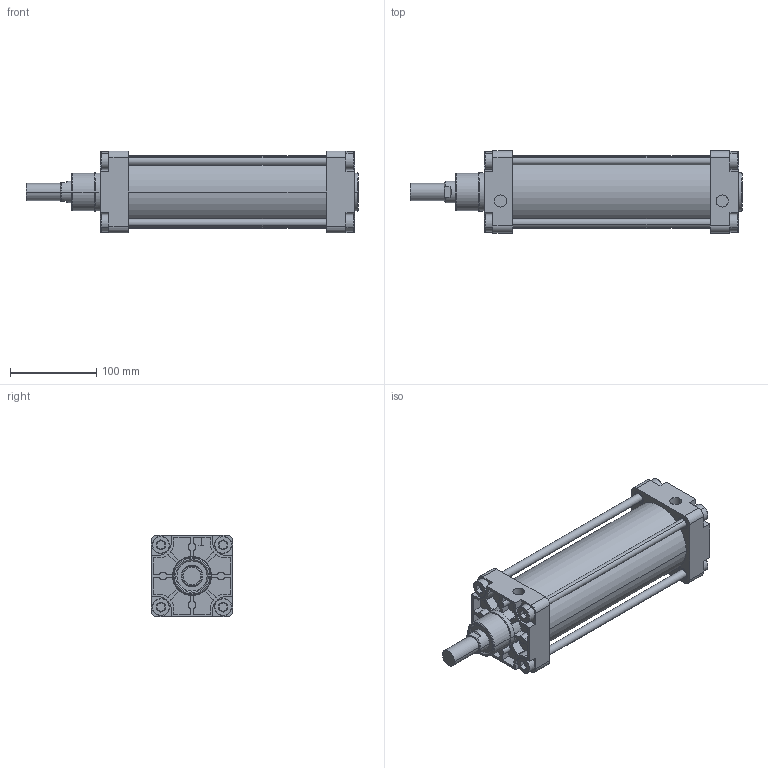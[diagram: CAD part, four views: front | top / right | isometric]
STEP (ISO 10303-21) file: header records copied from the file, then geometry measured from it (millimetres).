
FILE_DESCRIPTION(('CATIA V5 STEP Exchange'),'2;1');
FILE_NAME('D:\stp file for catalog\PNC\80\pnc 80-25-160.stp','2015-06-16T06:08:49+00:00',('none'),('none'),'Version 5-6 Release 2012','CATIA V5 STEP AP203','none');
FILE_SCHEMA(('CONFIG_CONTROL_DESIGN'));
Length unit declared in the file: millimetre
Products named in the file (1): pnc 80-25-160-00
Assembly tree (2 placements, depth 2):
  pnc 80-25-160-00
    #58
    #14781
Bounding box: 385 x 95 x 95 mm (x, y, z)
Volume: 1148900.5 mm3; surface area: 313632.2 mm2
Topology: 6 solids, 6 shells, 560 faces, 1404 edges, 916 vertices
Faces by surface type: plane 328, cylinder 184, torus 28, extrusion 16, cone 4
Entity records: 15305 total; most frequent: CARTESIAN_POINT 3040, ORIENTED_EDGE 2808, DIRECTION 1892, EDGE_CURVE 1404, VERTEX_POINT 916, VECTOR 898, LINE 882, AXIS2_PLACEMENT_3D 722
